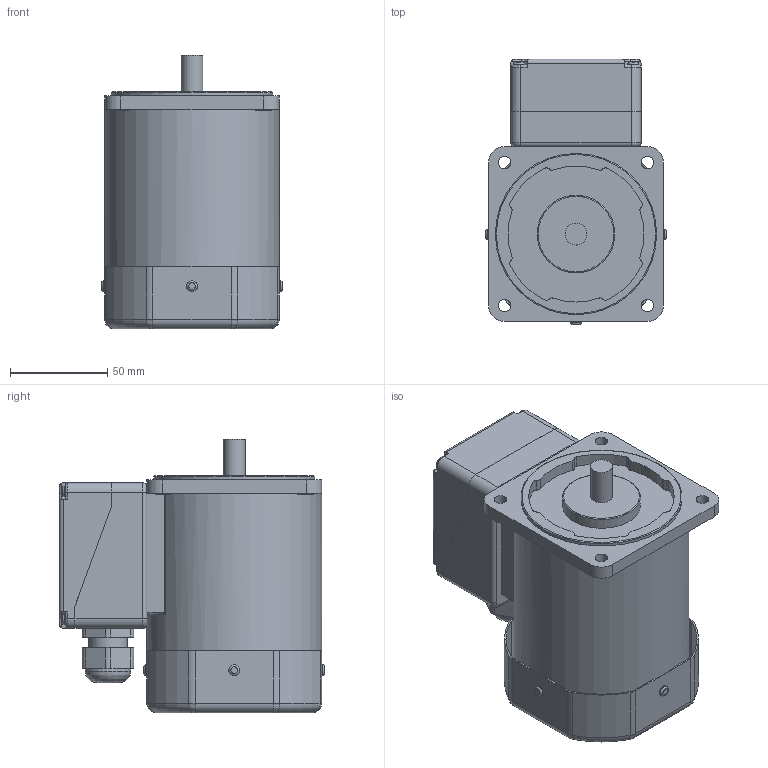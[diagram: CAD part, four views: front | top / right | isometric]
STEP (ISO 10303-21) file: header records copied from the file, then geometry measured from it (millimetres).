
FILE_DESCRIPTION((''),'2;1');
FILE_NAME('E:\2공장-도면\3D\표준형 3D(민규)\step file\K9IP60Fㅁ-T5.stp','2014-11-13T09:50:55',('AHN'),(''),'Autodesk Inventor 2012','Autodesk Inventor 2012','');
FILE_SCHEMA(('CONFIG_CONTROL_DESIGN'));
Length unit declared in the file: millimetre
Products named in the file (5): K9IP60Fㅁ-T5; BASE(a); COVER(a); K9IP60Fㅁ; 케이블
Assembly tree (4 placements, depth 2):
  K9IP60Fㅁ-T5
    BASE(a)
    COVER(a)
    K9IP60Fㅁ
    케이블
Bounding box: 93 x 136.5 x 141 mm (x, y, z)
Volume: 771911.4 mm3; surface area: 122762.9 mm2
Topology: 4 solids, 10 shells, 695 faces, 1712 edges, 1039 vertices
Faces by surface type: cylinder 315, plane 183, torus 138, bspline 31, sphere 20, cone 8
Full cylindrical faces by diameter (mm): 3.242 x4, 3.5 x4, 4.5 x4, 5.5 x8, 6.5 x4, 8 x4, 11.3 x1, 20 x1, 21 x1, 23.5 x1, 40 x1, 83 x1, 90 x1
Entity records: 22068 total; most frequent: CARTESIAN_POINT 5500, DIRECTION 3700, ORIENTED_EDGE 3256, EDGE_CURVE 1628, AXIS2_PLACEMENT_3D 1500, VERTEX_POINT 1021, CIRCLE 819, EDGE_LOOP 815
